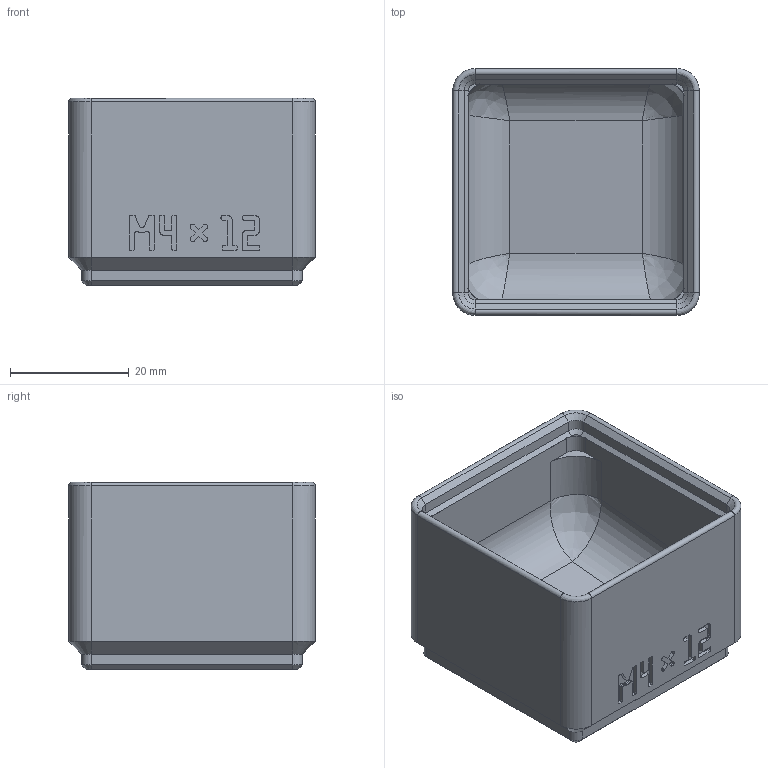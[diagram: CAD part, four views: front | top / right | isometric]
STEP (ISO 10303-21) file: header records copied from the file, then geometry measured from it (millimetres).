
FILE_DESCRIPTION(('Open CASCADE Model'),'2;1');
FILE_NAME('Open CASCADE Shape Model','2026-11-03T17:57:53',('Author'),( 'Open CASCADE'),'Open CASCADE STEP processor 8.0','build123d', 'Unknown');
FILE_SCHEMA(('AUTOMOTIVE_DESIGN { 1 0 10303 214 1 1 1 1 }'));
Length unit declared in the file: millimetre
Products named in the file (1): COMPOUND
Bounding box: 41.5 x 41.5 x 31.55 mm (x, y, z)
Volume: 18950.7 mm3; surface area: 11340.5 mm2
Topology: 1 solids, 1 shells, 603 faces, 1700 edges, 1100 vertices
Faces by surface type: plane 539, cylinder 36, cone 20, bspline 8
Entity records: 42542 total; most frequent: CARTESIAN_POINT 10654, DIRECTION 5194, LINE 3872, VECTOR 3872, ORIENTED_EDGE 3392, PCURVE 3392, DEFINITIONAL_REPRESENTATION 3392, EDGE_CURVE 1696
